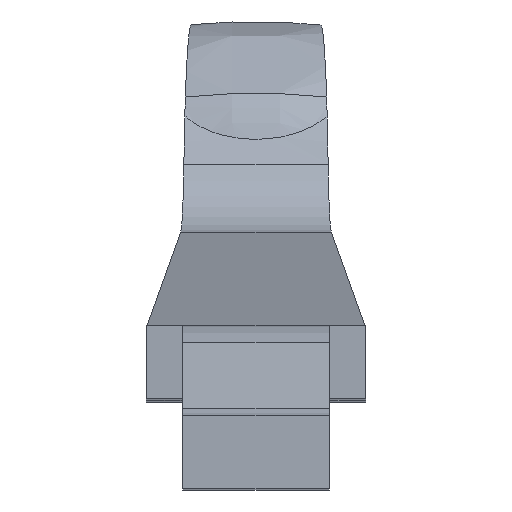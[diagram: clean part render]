
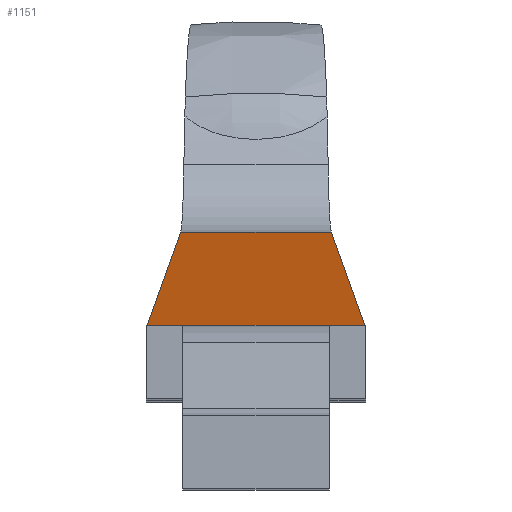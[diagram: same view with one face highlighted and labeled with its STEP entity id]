
A CAD part, top view. The second image highlights one B-rep face of the part: STEP entity #1151.
In plain terms, the highlighted planar face has unit normal (0, 0.995, 0.101).
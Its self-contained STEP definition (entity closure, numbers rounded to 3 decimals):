
#37=DIRECTION('',(-0.036,0.101,-0.994));
#38=VECTOR('',#37,2.644);
#39=CARTESIAN_POINT('',(0.3,0.451,-5.8));
#40=LINE('',#39,#38);
#101=CARTESIAN_POINT('',(-0.206,0.718,
-8.429));
#283=DIRECTION('',(-1.,0.,0.));
#284=VECTOR('',#283,0.411);
#285=CARTESIAN_POINT('',(0.206,0.718,
-8.429));
#286=LINE('',#285,#284);
#287=DIRECTION('',(0.036,0.101,-0.994));
#288=VECTOR('',#287,2.644);
#289=CARTESIAN_POINT('',(-0.3,0.451,
-5.8));
#290=LINE('',#289,#288);
#291=DIRECTION('',(1.,0.,0.));
#292=VECTOR('',#291,0.6);
#293=CARTESIAN_POINT('',(-0.3,0.451,
-5.8));
#294=LINE('',#293,#292);
#704=CARTESIAN_POINT('',(0.3,0.451,
-5.8));
#705=VERTEX_POINT('',#704);
#706=CARTESIAN_POINT('',(0.206,0.718,
-8.429));
#707=VERTEX_POINT('',#706);
#728=VERTEX_POINT('',#101);
#729=CARTESIAN_POINT('',(-0.3,0.451,
-5.8));
#730=VERTEX_POINT('',#729);
#1139=CARTESIAN_POINT('',(0.3,0.449,-5.78));
#1140=DIRECTION('',(0.,-0.995,-0.101));
#1141=DIRECTION('',(0.,0.101,-0.995));
#1142=AXIS2_PLACEMENT_3D('',#1139,#1140,#1141);
#1143=PLANE('',#1142);
#1144=ORIENTED_EDGE('',*,*,#941,.T.);
#1145=ORIENTED_EDGE('',*,*,#1134,.F.);
#1146=ORIENTED_EDGE('',*,*,#870,.F.);
#1148=ORIENTED_EDGE('',*,*,#1147,.F.);
#1149=EDGE_LOOP('',(#1144,#1145,#1146,#1148));
#1150=FACE_OUTER_BOUND('',#1149,.F.);
#1151=ADVANCED_FACE('',(#1150),#1143,.F.);
#870=EDGE_CURVE('',#705,#707,#40,.T.);
#941=EDGE_CURVE('',#730,#728,#290,.T.);
#1134=EDGE_CURVE('',#707,#728,#286,.T.);
#1147=EDGE_CURVE('',#730,#705,#294,.T.);
